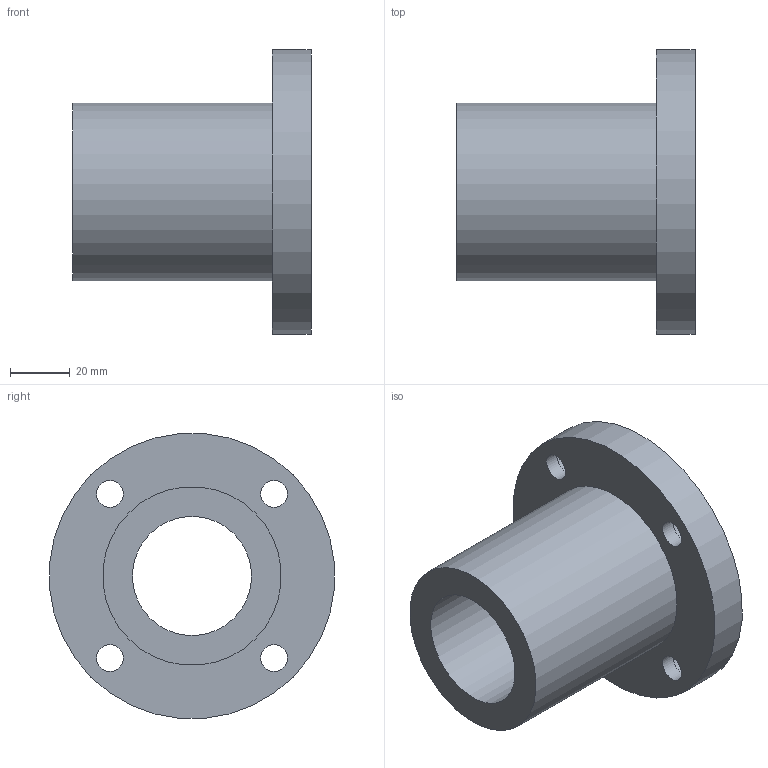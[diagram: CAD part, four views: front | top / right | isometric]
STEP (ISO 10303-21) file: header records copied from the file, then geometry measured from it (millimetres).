
FILE_DESCRIPTION(/* description */ (''),/* implementation_level */ '2;1');
FILE_NAME(/* name */ 'LMF40UU',/* time_stamp */ '2019-07-03T09:08:35+02:00',/* author */ ('VĂ©gh MĂˇtĂ©'),/* organization */ ('Bearing Kft'),/* preprocessor_version */ 'ST-DEVELOPER v16.7',/* originating_system */ 'DEX',/* authorisation */ $);
FILE_SCHEMA (('AUTOMOTIVE_DESIGN {1 0 10303 214 3 1 1}'));
Length unit declared in the file: millimetre
Products named in the file (1): LMF40UU
Bounding box: 80 x 95.63 x 95.63 mm (x, y, z)
Volume: 176756.8 mm3; surface area: 40078 mm2
Topology: 1 solids, 1 shells, 324 faces, 810 edges, 540 vertices
Faces by surface type: plane 254, bspline 57, cylinder 13
Full cylindrical faces by diameter (mm): 9 x4, 14 x4, 40 x1, 60 x1, 96 x1
Entity records: 12772 total; most frequent: CARTESIAN_POINT 5372, ORIENTED_EDGE 1592, DIRECTION 1244, EDGE_CURVE 796, LINE 656, VECTOR 656, VERTEX_POINT 540, EDGE_LOOP 400
